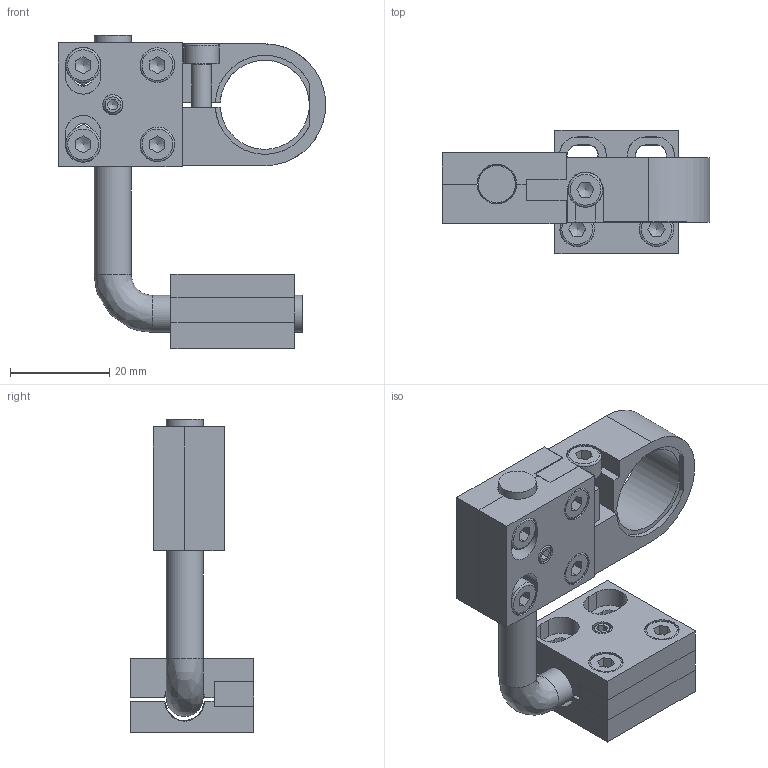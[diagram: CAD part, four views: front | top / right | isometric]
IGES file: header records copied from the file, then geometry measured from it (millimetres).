
Global section: file name: 153-01016_MS M5-30_0; native system: Autodesk Inventor 2014; preprocessor: unknown; author: ss; date: 20150813.093246; units: millimetre
Bounding box: 54 x 25 x 63.25 mm (x, y, z)
Volume: 22239.3 mm3; surface area: 20207.6 mm2
Topology: 24 solids, 24 shells, 478 faces, 1279 edges, 858 vertices
Faces by surface type: bspline 478
